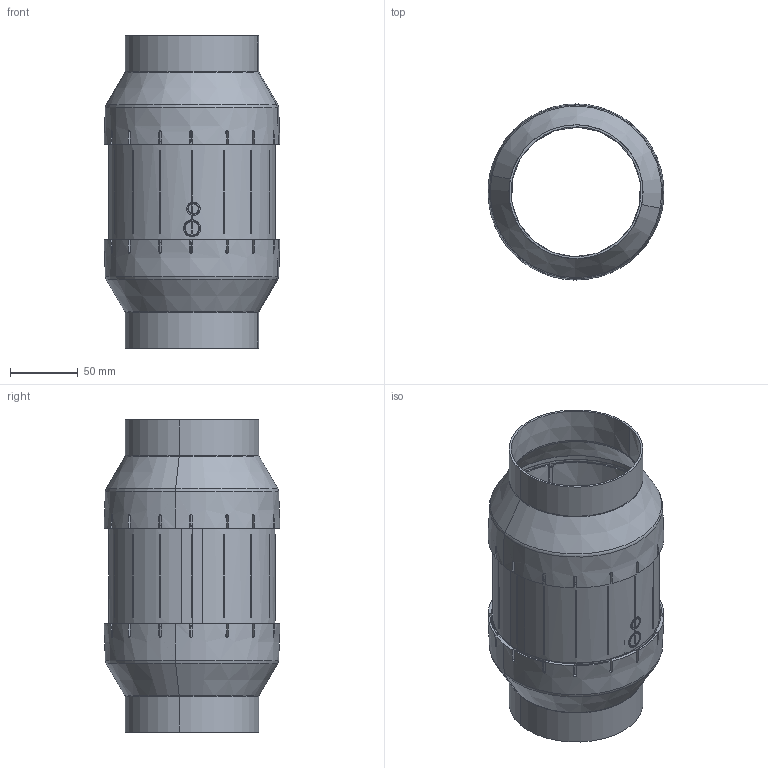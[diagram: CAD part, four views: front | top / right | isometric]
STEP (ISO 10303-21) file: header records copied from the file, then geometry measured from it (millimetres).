
FILE_DESCRIPTION (( 'STEP AP203' ), '1' );
FILE_NAME ('137668-00_EM100LE201.STEP', '2017-01-19T09:11:47', ( '' ), ( '' ), 'SwSTEP 2.0', 'SolidWorks 2012', '' );
FILE_SCHEMA (( 'CONFIG_CONTROL_DESIGN' ));
Length unit declared in the file: millimetre
Products named in the file (1): 137668-00_EM100LE201
Bounding box: 130.16 x 130.16 x 231 mm (x, y, z)
Surface area: 217995 mm2 (no closed solid volume)
Topology: 0 solids, 12 shells, 381 faces, 1446 edges, 1036 vertices
Faces by surface type: plane 143, cylinder 115, cone 82, bspline 29, torus 12
Entity records: 19511 total; most frequent: CARTESIAN_POINT 8528, ORIENTED_EDGE 2386, DIRECTION 1949, EDGE_CURVE 1446, VERTEX_POINT 1036, AXIS2_PLACEMENT_3D 790, B_SPLINE_CURVE_WITH_KNOTS 562, CIRCLE 437
